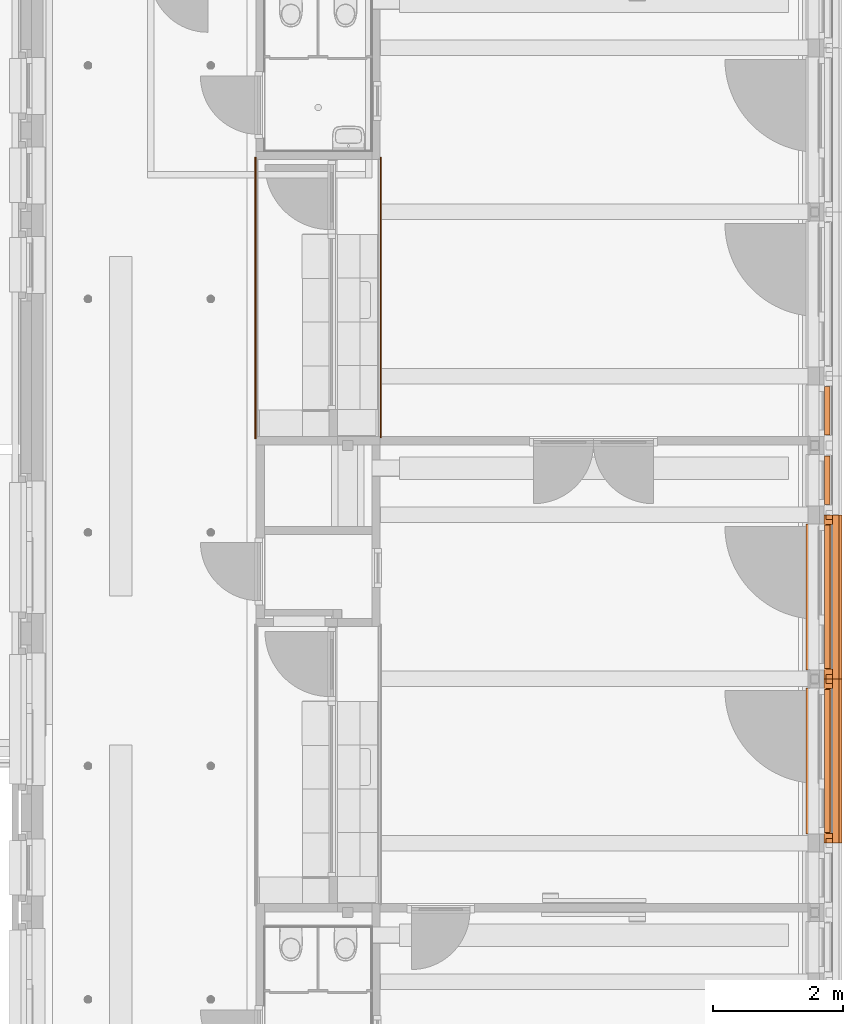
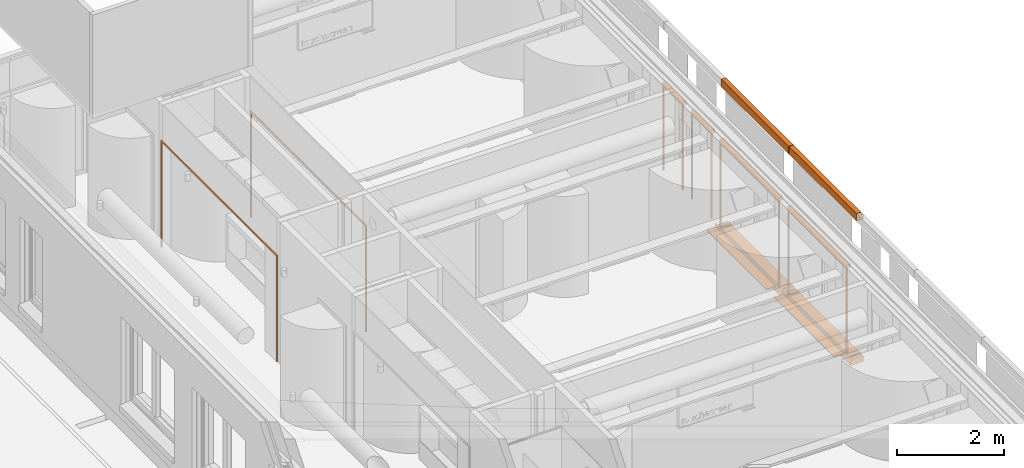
# One storey, part 103 of 128: 12 proxies.
"""IFC2X3 building model written with IfcOpenShell, lengths in millimetres."""

from ifc_helpers import new_model, entity, si_unit, converted_unit, derived_unit, direction, frame, frame_2d, origin, origin_2d_with_axis, place, context, subcontext, project, spatial, polyline, circle_curve, parameter, trimmed, segment, composite_curve, rectangle, outline, extrude, source, transform, mapped, material, material_list, type_object, type_shapes, element, save


model = new_model("IFC2X3")

# Units and contexts
model_context = context("Model", 3, precision=0.01, world=origin(), true_north=direction((6.123031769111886e-17, 1.0)))
body_context = subcontext(model_context, "Body", "Model", "MODEL_VIEW")
ifc_project = project(units=[si_unit("LENGTHUNIT", "METRE", prefix="MILLI"), si_unit("AREAUNIT", "SQUARE_METRE"), si_unit("VOLUMEUNIT", "CUBIC_METRE"), converted_unit("PLANEANGLEUNIT", "DEGREE", entity("IfcRatioMeasure", 0.017453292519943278), si_unit("PLANEANGLEUNIT", "RADIAN"), dimensions=[0, 0, 0, 0, 0, 0, 0]), si_unit("MASSUNIT", "GRAM", prefix="KILO"), derived_unit("MASSDENSITYUNIT", [(si_unit("MASSUNIT", "GRAM", prefix="KILO"), 1), (si_unit("LENGTHUNIT", "METRE"), -3)]), derived_unit("IONCONCENTRATIONUNIT", [(si_unit("MASSUNIT", "GRAM", prefix="KILO"), 1), (si_unit("LENGTHUNIT", "METRE"), -3)]), derived_unit("MOMENTOFINERTIAUNIT", [(si_unit("LENGTHUNIT", "METRE"), 4)]), si_unit("TIMEUNIT", "SECOND"), si_unit("FREQUENCYUNIT", "HERTZ"), si_unit("THERMODYNAMICTEMPERATUREUNIT", "DEGREE_CELSIUS"), derived_unit("THERMALTRANSMITTANCEUNIT", [(si_unit("MASSUNIT", "GRAM", prefix="KILO"), 1), (si_unit("THERMODYNAMICTEMPERATUREUNIT", "KELVIN"), -1), (si_unit("TIMEUNIT", "SECOND"), -3)]), derived_unit("THERMALCONDUCTANCEUNIT", [(si_unit("MASSUNIT", "GRAM", prefix="KILO"), 1), (si_unit("THERMODYNAMICTEMPERATUREUNIT", "KELVIN"), -1), (si_unit("TIMEUNIT", "SECOND"), -3), (si_unit("LENGTHUNIT", "METRE"), 1)]), derived_unit("VOLUMETRICFLOWRATEUNIT", [(si_unit("LENGTHUNIT", "METRE"), 3), (si_unit("TIMEUNIT", "SECOND"), -1)]), derived_unit("MASSFLOWRATEUNIT", [(si_unit("MASSUNIT", "GRAM", prefix="KILO"), 1), (si_unit("TIMEUNIT", "SECOND"), -1)]), derived_unit("ROTATIONALFREQUENCYUNIT", [(si_unit("TIMEUNIT", "SECOND"), -1)]), si_unit("ELECTRICCURRENTUNIT", "AMPERE"), si_unit("ELECTRICVOLTAGEUNIT", "VOLT"), si_unit("POWERUNIT", "WATT"), si_unit("FORCEUNIT", "NEWTON", prefix="KILO"), si_unit("ILLUMINANCEUNIT", "LUX"), si_unit("LUMINOUSFLUXUNIT", "LUMEN"), si_unit("LUMINOUSINTENSITYUNIT", "CANDELA"), derived_unit("USERDEFINED", [(si_unit("MASSUNIT", "GRAM", prefix="KILO"), -1), (si_unit("LENGTHUNIT", "METRE"), -2), (si_unit("TIMEUNIT", "SECOND"), 3), (si_unit("LUMINOUSFLUXUNIT", "LUMEN"), 1)]), derived_unit("USERDEFINED", [(si_unit("MASSUNIT", "GRAM", prefix="KILO"), 1), (si_unit("TIMEUNIT", "SECOND"), -3), (si_unit("LENGTHUNIT", "METRE"), 3), (si_unit("ELECTRICCURRENTUNIT", "AMPERE"), -2)]), derived_unit("SOUNDPOWERUNIT", [(si_unit("MASSUNIT", "GRAM", prefix="KILO"), 1), (si_unit("TIMEUNIT", "SECOND"), -3), (si_unit("LENGTHUNIT", "METRE"), 2)]), derived_unit("SOUNDPRESSUREUNIT", [(si_unit("MASSUNIT", "GRAM", prefix="KILO"), 1), (si_unit("LENGTHUNIT", "METRE"), -1), (si_unit("TIMEUNIT", "SECOND"), -2)]), derived_unit("LINEARVELOCITYUNIT", [(si_unit("LENGTHUNIT", "METRE"), 1), (si_unit("TIMEUNIT", "SECOND"), -1)]), si_unit("PRESSUREUNIT", "PASCAL"), derived_unit("USERDEFINED", [(si_unit("MASSUNIT", "GRAM", prefix="KILO"), 1), (si_unit("LENGTHUNIT", "METRE"), -2), (si_unit("TIMEUNIT", "SECOND"), -2)]), derived_unit("LINEARFORCEUNIT", [(si_unit("MASSUNIT", "GRAM", prefix="KILO"), 1), (si_unit("TIMEUNIT", "SECOND"), -2)]), derived_unit("PLANARFORCEUNIT", [(si_unit("MASSUNIT", "GRAM", prefix="KILO"), 1), (si_unit("LENGTHUNIT", "METRE"), -1), (si_unit("TIMEUNIT", "SECOND"), -2)]), derived_unit("SPECIFICHEATCAPACITYUNIT", [(si_unit("THERMODYNAMICTEMPERATUREUNIT", "KELVIN"), -1), (si_unit("LENGTHUNIT", "METRE"), 2), (si_unit("TIMEUNIT", "SECOND"), -2)]), derived_unit("HEATINGVALUEUNIT", [(si_unit("LENGTHUNIT", "METRE"), 2), (si_unit("TIMEUNIT", "SECOND"), -2)]), derived_unit("VAPORPERMEABILITYUNIT", [(si_unit("LENGTHUNIT", "METRE"), -1), (si_unit("TIMEUNIT", "SECOND"), 1)]), derived_unit("DYNAMICVISCOSITYUNIT", [(si_unit("MASSUNIT", "GRAM", prefix="KILO"), 1), (si_unit("TIMEUNIT", "SECOND"), -1), (si_unit("LENGTHUNIT", "METRE"), -1)]), derived_unit("THERMALEXPANSIONCOEFFICIENTUNIT", [(si_unit("THERMODYNAMICTEMPERATUREUNIT", "KELVIN"), -1)]), derived_unit("MODULUSOFELASTICITYUNIT", [(si_unit("MASSUNIT", "GRAM", prefix="KILO"), 1), (si_unit("LENGTHUNIT", "METRE"), -1), (si_unit("TIMEUNIT", "SECOND"), -2)]), derived_unit("ISOTHERMALMOISTURECAPACITYUNIT", [(si_unit("LENGTHUNIT", "METRE"), 3), (si_unit("MASSUNIT", "GRAM", prefix="KILO"), -1)]), derived_unit("MOISTUREDIFFUSIVITYUNIT", [(si_unit("TIMEUNIT", "SECOND"), -1), (si_unit("LENGTHUNIT", "METRE"), 2)])], contexts=[model_context])

# Site, building, storey
site_placement = place(None, frame((0.0, 300.0, 0.0)))
site = spatial("IfcSite", under=ifc_project, at=site_placement, Name="<Kadastrale nummers>", CompositionType="ELEMENT")
building_placement = place(site_placement, origin())
building = spatial("IfcBuilding", under=site, at=building_placement, CompositionType="ELEMENT")
storey_placement = place(building_placement, frame((0.0, 0.0, 3560.0000331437)))
storey = spatial("IfcBuildingStorey", under=building, at=storey_placement, Name="01 eerste verdieping", CompositionType="ELEMENT", Elevation=3560.0000331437)

# Proxies
ifc_material_1 = material(Name="ISR_Beton_prefab")
building_element_proxy_type_1 = type_object("IfcBuildingElementProxyType", Name="29_DAT_Prefab betonnen waterslag lang:22", PredefinedType="NOTDEFINED", material=ifc_material_1)
shared_shape_1 = source(origin(), body_context, "Body", "SweptSolid", [
    extrude(outline(polyline([(-16.052237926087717, -115.0), (26.113434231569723, -115.0), (5.9910416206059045, 115.0), (-16.052237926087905, 115.0), (-16.052237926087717, -115.0)])), frame((2377.0, 75.0, -16.05223792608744), z_axis=(1.0, 0.0, 0.0), x_axis=(0.0, 0.0, -1.0)), (0.0, 0.0, 1.0), 79.99999999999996),
    extrude(outline(polyline([(-16.052237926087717, -115.0), (26.113434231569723, -115.0), (5.9910416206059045, 115.0), (-16.052237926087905, 115.0), (-16.052237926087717, -115.0)])), frame((67.0, 75.0, -16.05223792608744), z_axis=(1.0, 0.0, 0.0), x_axis=(0.0, 0.0, -1.0)), (0.0, 0.0, 1.0), 80.00000000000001),
    extrude(outline(composite_curve([segment(polyline([(-140.0, -95.7340207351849), (-110.0, -95.7340207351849)]), True, "CONTINUOUS"), segment(polyline([(-110.0, -95.7340207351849), (-110.0, -73.7340207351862)]), True, "CONTINUOUS"), segment(polyline([(-110.0, -73.7340207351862), (140.0, -51.861854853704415)]), True, "CONTINUOUS"), segment(polyline([(140.0, -51.86185485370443), (140.0, 79.26597926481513)]), True, "CONTINUOUS"), segment(polyline([(140.0, 79.26597926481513), (115.0, 79.26597926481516)]), True, "CONTINUOUS"), segment(trimmed(circle_curve(frame_2d((110.0, 79.26597926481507), x_axis=(1.0, 0.0)), 5.000000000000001), [parameter(179.99999999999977)], [parameter(4.0711099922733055e-13)], True, "PARAMETER"), False, "CONTINUOUS"), segment(polyline([(105.0, 79.26597926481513), (-140.0, 79.26597926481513)]), True, "CONTINUOUS"), segment(polyline([(-140.0, 79.26597926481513), (-140.0, -95.7340207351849)]), True, "CONTINUOUS")], self_intersect=False)), frame((0.0, 80.0, -95.73402073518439), z_axis=(1.0, 0.0, 0.0), x_axis=(0.0, -1.0, 0.0)), (0.0, 0.0, 1.0), 2524.0000000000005),
])
type_shapes(building_element_proxy_type_1, [shared_shape_1])
for number, where, z_axis, x_axis, name in (
    (1, (48965.0, 20103.0, 890.0000018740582), (0.0, 0.0, 1.0), (0.0, 1.0, 0.0), "29_DAT_Prefab betonnen waterslag lang:22"),
    (2, (48965.0, 17573.0, 890.0000018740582), (0.0, 0.0, 1.0), (0.0, 1.0, 0.0), "29_DAT_Prefab betonnen waterslag lang:22"),
):
    element("IfcBuildingElementProxy", number, at=place(storey_placement, frame(where, z_axis=z_axis, x_axis=x_axis)), inside=storey, type_object=building_element_proxy_type_1, material=ifc_material_1, Name=name, ObjectType="29_DAT_Prefab betonnen waterslag lang:22", context=body_context, shape_type="MappedRepresentation", body=[
        mapped(shared_shape_1, transform((0.0, 0.0, 0.0), scale=1.0)),
    ])
ifc_material_2 = material(Name="STAAL_RAL 7006")
ifc_material_3 = material(Name="<Unnamed>")
ifc_material_list = material_list([ifc_material_2, ifc_material_3])
building_element_proxy_type_2 = type_object("IfcBuildingElementProxyType", Name="31_DAT_Screen_zonwering_bak85:31_DAT_Screen_zonwering_bak85", PredefinedType="NOTDEFINED", material=ifc_material_list)
shared_shape_2 = source(origin(), body_context, "Body", "SweptSolid", [
    extrude(outline(polyline([(-60.69864841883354, -53.573897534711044), (20.695945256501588, -53.573897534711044), (20.695945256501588, 1.1216926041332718), (22.501351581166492, 1.1216926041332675), (22.501351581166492, 24.626102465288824), (17.501351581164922, 24.626102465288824), (17.501351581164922, 27.826102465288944), (-60.69864841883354, 27.826102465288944), (-60.69864841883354, -53.573897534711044)])), frame((2208.0, -29.62610246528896, 2752.501351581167), z_axis=(1.0, 0.0, 0.0), x_axis=(0.0, 0.0, -1.0)), (0.0, 0.0, 1.0), 1.999999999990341),
    extrude(outline(polyline([(-55.83243227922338, -51.08259835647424), (29.167567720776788, -51.08259835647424), (29.167567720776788, 5.412991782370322), (27.362161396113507, 5.412991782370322), (27.362161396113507, -49.28259835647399), (-54.032432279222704, -49.28259835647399), (-54.032432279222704, 32.117401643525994), (24.16756772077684, 32.117401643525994), (24.16756772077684, 28.91740164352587), (29.167567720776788, 28.91740164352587), (29.167567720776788, 33.917401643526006), (-55.83243227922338, 33.917401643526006), (-55.83243227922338, -51.08259835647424)])), frame((0.0, -33.917401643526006, 2759.1675677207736), z_axis=(1.0, 0.0, 0.0), x_axis=(0.0, 0.0, -1.0)), (0.0, 0.0, 1.0), 2210.000000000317),
    extrude(outline(polyline([(-60.69864841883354, -53.573897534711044), (20.695945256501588, -53.573897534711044), (20.695945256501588, 1.1216926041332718), (22.501351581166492, 1.1216926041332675), (22.501351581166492, 24.626102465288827), (17.501351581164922, 24.626102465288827), (17.501351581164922, 27.826102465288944), (-60.69864841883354, 27.826102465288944), (-60.69864841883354, -53.573897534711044)])), frame((0.0, -29.62610246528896, 2752.501351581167), z_axis=(1.0, 0.0, 0.0), x_axis=(0.0, 0.0, -1.0)), (0.0, 0.0, 1.0), 1.999999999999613),
    extrude(rectangle(XDim=2170.0000000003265, YDim=1.163311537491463, at=frame_2d((1.1368683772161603e-13, -2.1094237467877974e-15), x_axis=(1.0, 0.0))), frame((1105.0, -20.037293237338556, 2723.857769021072)), (0.0, 0.0, 1.0), 6.142230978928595),
    extrude(outline(composite_curve([segment(polyline([(-7.502327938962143, -23.023758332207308), (7.497672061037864, -23.023758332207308)]), True, "CONTINUOUS"), segment(trimmed(circle_curve(frame_2d((7.497672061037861, -21.523758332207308), x_axis=(0.0, -1.0)), 1.4999999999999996), [parameter(359.99999999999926)], [parameter(90.00000000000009)], True, "PARAMETER"), True, "CONTINUOUS"), segment(polyline([(8.997672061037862, -21.523758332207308), (8.997672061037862, 8.976241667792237)]), True, "CONTINUOUS"), segment(trimmed(circle_curve(frame_2d((5.99767206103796, 8.976241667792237), x_axis=(0.0, -1.0)), 3.0), [parameter(90.00000000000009)], [parameter(172.84454900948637)], True, "PARAMETER"), True, "CONTINUOUS"), segment(polyline([(6.371357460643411, 11.952877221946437), (2.232090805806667, 12.470504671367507)]), True, "CONTINUOUS"), segment(trimmed(circle_curve(frame_2d((2.1399803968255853, 11.733933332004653), x_axis=(0.0, -1.0)), 0.7423083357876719), [parameter(172.87199730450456)], [parameter(323.5235343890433)], True, "PARAMETER"), True, "CONTINUOUS"), segment(trimmed(circle_curve(frame_2d((-0.0023279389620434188, 8.976241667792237), x_axis=(0.0, -1.0)), 2.75), [parameter(217.47327986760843)], [parameter(141.78969998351)], True, "PARAMETER"), False, "CONTINUOUS"), segment(trimmed(circle_curve(frame_2d((-2.144636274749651, 11.733933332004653), x_axis=(0.0, -1.0)), 0.7423083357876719), [parameter(39.207114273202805)], [parameter(187.12800269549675)], True, "PARAMETER"), True, "CONTINUOUS"), segment(polyline([(-2.2367466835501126, 12.470504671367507), (-6.376013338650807, 11.952877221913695)]), True, "CONTINUOUS"), segment(trimmed(circle_curve(frame_2d((-6.002327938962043, 8.976241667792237), x_axis=(0.0, -1.0)), 3.0), [parameter(187.1554509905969)], [parameter(269.9999999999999)], True, "PARAMETER"), True, "CONTINUOUS"), segment(polyline([(-9.002327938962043, 8.976241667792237), (-9.002327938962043, -21.523758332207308)]), True, "CONTINUOUS"), segment(trimmed(circle_curve(frame_2d((-7.502327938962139, -21.523758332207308), x_axis=(0.0, -1.0)), 1.5000000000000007), [parameter(269.9999999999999)], [parameter(359.9999999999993)], True, "PARAMETER"), True, "CONTINUOUS")], self_intersect=False)), frame((20.0, -19.997672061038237, 2716.8815273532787), z_axis=(1.0, 0.0, 0.0), x_axis=(0.0, 1.0, 0.0)), (0.0, 0.0, 1.0), 2170.0000000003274),
    extrude(outline(polyline([(-14.638298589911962, -16.231574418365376), (-13.138298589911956, -16.231574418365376), (-13.138298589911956, 12.23272922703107), (-6.116685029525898, 12.23272922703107), (-6.116685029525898, -6.231574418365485), (-1.1166850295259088, -6.231574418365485), (-1.1166850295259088, -4.769580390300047), (-4.579546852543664, -4.769580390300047), (-4.579546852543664, 12.23272922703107), (13.866111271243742, 12.23272922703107), (13.866111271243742, -4.769580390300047), (10.361701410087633, -4.769580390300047), (10.361701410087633, -6.2315744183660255), (15.36170141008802, -6.2315744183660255), (15.36170141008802, 13.768425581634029), (-14.638298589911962, 13.768425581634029), (-14.638298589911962, -16.231574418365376)])), frame((2196.231574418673, -14.638298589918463, 800.0), z_axis=(0.0, 0.0, 1.0), x_axis=(0.0, -1.0, 0.0)), (0.0, 0.0, 1.0), 1930.000000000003),
    extrude(outline(polyline([(-16.231574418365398, -14.638298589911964), (13.768425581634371, -14.638298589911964), (13.76842558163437, 15.361701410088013), (-6.231574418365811, 15.361701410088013), (-6.231574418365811, 10.361701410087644), (-4.769580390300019, 10.361701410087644), (-4.769580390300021, 13.866111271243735), (12.2327292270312, 13.866111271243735), (12.2327292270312, -4.57954685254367), (-4.769580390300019, -4.57954685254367), (-4.769580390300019, -1.1166850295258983), (-6.231574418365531, -1.1166850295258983), (-6.231574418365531, -6.116685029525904), (12.232729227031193, -6.116685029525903), (12.232729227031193, -13.138298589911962), (-16.231574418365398, -13.138298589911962), (-16.231574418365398, -14.638298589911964)])), frame((13.768425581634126, -14.638298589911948, 800.0), z_axis=(0.0, 0.0, 1.0), x_axis=(-1.0, 0.0, 0.0)), (0.0, 0.0, 1.0), 1930.0000000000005),
])
type_shapes(building_element_proxy_type_2, [shared_shape_2])
for number, where, z_axis, x_axis, name in (
    (3, (48751.0, 20260.0, 100.00000187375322), (0.0, 0.0, 1.0), (0.0, 1.0, 0.0), "31_DAT_Screen_zonwering_bak85:31_DAT_Screen_zonwering_bak85"),
    (4, (48751.0, 17730.0, 100.00000187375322), (0.0, 0.0, 1.0), (0.0, 1.0, 0.0), "31_DAT_Screen_zonwering_bak85:31_DAT_Screen_zonwering_bak85"),
):
    element("IfcBuildingElementProxy", number, at=place(storey_placement, frame(where, z_axis=z_axis, x_axis=x_axis)), inside=storey, type_object=building_element_proxy_type_2, material=ifc_material_list, Name=name, ObjectType="31_DAT_Screen_zonwering_bak85:31_DAT_Screen_zonwering_bak85", context=body_context, shape_type="MappedRepresentation", body=[
        mapped(shared_shape_2, transform((0.0, 0.0, 0.0), scale=1.0)),
    ])
building_element_proxy_type_3 = type_object("IfcBuildingElementProxyType", Name="29_DAT_Prefab betonband afgeschuind:29_DAT_Prefab betonband afgeschuind", PredefinedType="NOTDEFINED", material=ifc_material_1)
shared_shape_3 = source(origin(), body_context, "Body", "SweptSolid", [
    extrude(outline(polyline([(-94.16666666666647, -83.33333333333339), (80.83333333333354, -83.33333333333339), (80.83333333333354, 16.66666666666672), (18.33333333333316, 16.666666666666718), (8.333333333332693, 66.66666666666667), (-94.16666666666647, 66.66666666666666), (-94.16666666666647, -83.33333333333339)])), frame((0.0, 16.66666666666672, -18.33333333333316), z_axis=(1.0, 0.0, 0.0), x_axis=(0.0, 0.0, 1.0)), (0.0, 0.0, 1.0), 2524.0000000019),
])
type_shapes(building_element_proxy_type_3, [shared_shape_3])
for number, where, z_axis, x_axis, name in (
    (5, (48975.0, 20103.0, 4077.4999668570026), (0.0, 0.0, 1.0), (0.0, 1.0, 0.0), "29_DAT_Prefab betonband afgeschuind:29_DAT_Prefab betonband afgeschuind"),
    (6, (48975.0, 17573.0, 4077.4999668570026), (0.0, 0.0, 1.0), (0.0, 1.0, 0.0), "29_DAT_Prefab betonband afgeschuind:29_DAT_Prefab betonband afgeschuind"),
):
    element("IfcBuildingElementProxy", number, at=place(storey_placement, frame(where, z_axis=z_axis, x_axis=x_axis)), inside=storey, type_object=building_element_proxy_type_3, material=ifc_material_1, Name=name, ObjectType="29_DAT_Prefab betonband afgeschuind:29_DAT_Prefab betonband afgeschuind", context=body_context, shape_type="MappedRepresentation", body=[
        mapped(shared_shape_3, transform((0.0, 0.0, 0.0), scale=1.0)),
    ])
building_element_proxy_type_4 = type_object("IfcBuildingElementProxyType", Name="31_DAT_Screen_zonwering_bak85:31_DAT_Screen_zonwering_bak85", PredefinedType="NOTDEFINED", material=ifc_material_list)
shared_shape_4 = source(origin(), body_context, "Body", "SweptSolid", [
    extrude(outline(polyline([(-60.69864841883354, -53.573897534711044), (20.695945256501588, -53.573897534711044), (20.695945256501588, 1.1216926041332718), (22.501351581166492, 1.1216926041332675), (22.501351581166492, 24.626102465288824), (17.501351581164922, 24.626102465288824), (17.501351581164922, 27.826102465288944), (-60.69864841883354, 27.826102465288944), (-60.69864841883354, -53.573897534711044)])), frame((748.0, -29.62610246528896, 2752.501351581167), z_axis=(1.0, 0.0, 0.0), x_axis=(0.0, 0.0, -1.0)), (0.0, 0.0, 1.0), 1.9999999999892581),
    extrude(outline(polyline([(-55.83243227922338, -51.08259835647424), (29.167567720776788, -51.08259835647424), (29.167567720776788, 5.412991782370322), (27.362161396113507, 5.412991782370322), (27.362161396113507, -49.28259835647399), (-54.032432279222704, -49.28259835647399), (-54.032432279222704, 32.117401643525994), (24.16756772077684, 32.117401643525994), (24.16756772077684, 28.91740164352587), (29.167567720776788, 28.91740164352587), (29.167567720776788, 33.917401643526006), (-55.83243227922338, 33.917401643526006), (-55.83243227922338, -51.08259835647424)])), frame((0.0, -33.917401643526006, 2759.1675677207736), z_axis=(1.0, 0.0, 0.0), x_axis=(0.0, 0.0, -1.0)), (0.0, 0.0, 1.0), 749.9999999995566),
    extrude(outline(polyline([(-60.69864841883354, -53.573897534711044), (20.695945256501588, -53.573897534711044), (20.695945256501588, 1.1216926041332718), (22.501351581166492, 1.1216926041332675), (22.501351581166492, 24.626102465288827), (17.501351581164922, 24.626102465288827), (17.501351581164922, 27.826102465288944), (-60.69864841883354, 27.826102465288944), (-60.69864841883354, -53.573897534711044)])), frame((0.0, -29.62610246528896, 2752.501351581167), z_axis=(1.0, 0.0, 0.0), x_axis=(0.0, 0.0, -1.0)), (0.0, 0.0, 1.0), 1.999999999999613),
    extrude(rectangle(XDim=709.9999999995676, YDim=1.163311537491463, at=frame_2d((0.0, -2.1094237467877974e-15), x_axis=(1.0, 0.0))), frame((375.0, -20.037293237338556, 2730.0)), (0.0, 0.0, 1.0), 61.996041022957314),
    extrude(outline(composite_curve([segment(polyline([(-7.502327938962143, -23.023758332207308), (7.497672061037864, -23.023758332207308)]), True, "CONTINUOUS"), segment(trimmed(circle_curve(frame_2d((7.497672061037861, -21.523758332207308), x_axis=(0.0, -1.0)), 1.4999999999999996), [parameter(359.99999999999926)], [parameter(90.00000000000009)], True, "PARAMETER"), True, "CONTINUOUS"), segment(polyline([(8.997672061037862, -21.523758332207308), (8.997672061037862, 8.976241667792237)]), True, "CONTINUOUS"), segment(trimmed(circle_curve(frame_2d((5.99767206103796, 8.976241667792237), x_axis=(0.0, -1.0)), 3.0), [parameter(90.00000000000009)], [parameter(172.84454900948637)], True, "PARAMETER"), True, "CONTINUOUS"), segment(polyline([(6.371357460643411, 11.952877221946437), (2.232090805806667, 12.470504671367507)]), True, "CONTINUOUS"), segment(trimmed(circle_curve(frame_2d((2.1399803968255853, 11.733933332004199), x_axis=(0.0, -1.0)), 0.7423083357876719), [parameter(172.87199730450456)], [parameter(323.5235343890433)], True, "PARAMETER"), True, "CONTINUOUS"), segment(trimmed(circle_curve(frame_2d((-0.0023279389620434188, 8.976241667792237), x_axis=(0.0, -1.0)), 2.75), [parameter(217.47327986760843)], [parameter(141.78969998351)], True, "PARAMETER"), False, "CONTINUOUS"), segment(trimmed(circle_curve(frame_2d((-2.144636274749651, 11.733933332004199), x_axis=(0.0, -1.0)), 0.7423083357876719), [parameter(39.207114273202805)], [parameter(187.12800269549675)], True, "PARAMETER"), True, "CONTINUOUS"), segment(polyline([(-2.2367466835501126, 12.470504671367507), (-6.376013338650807, 11.95287722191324)]), True, "CONTINUOUS"), segment(trimmed(circle_curve(frame_2d((-6.002327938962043, 8.976241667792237), x_axis=(0.0, -1.0)), 3.0), [parameter(187.1554509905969)], [parameter(269.9999999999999)], True, "PARAMETER"), True, "CONTINUOUS"), segment(polyline([(-9.002327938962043, 8.976241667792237), (-9.002327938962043, -21.523758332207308)]), True, "CONTINUOUS"), segment(trimmed(circle_curve(frame_2d((-7.502327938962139, -21.523758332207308), x_axis=(0.0, -1.0)), 1.5000000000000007), [parameter(269.9999999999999)], [parameter(359.9999999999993)], True, "PARAMETER"), True, "CONTINUOUS")], self_intersect=False)), frame((20.0, -19.997672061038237, 2785.0197993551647), z_axis=(1.0, 0.0, 0.0), x_axis=(0.0, 1.0, 0.0)), (0.0, 0.0, 1.0), 709.9999999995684),
    extrude(outline(polyline([(-14.638298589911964, -16.231574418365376), (-13.138298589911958, -16.231574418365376), (-13.138298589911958, 12.232729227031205), (-6.116685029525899, 12.232729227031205), (-6.116685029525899, -6.231574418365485), (-1.116685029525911, -6.231574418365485), (-1.116685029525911, -4.769580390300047), (-4.579546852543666, -4.769580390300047), (-4.579546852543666, 12.23272922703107), (13.86611127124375, 12.23272922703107), (13.86611127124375, -4.769580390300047), (10.36170141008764, -4.769580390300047), (10.36170141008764, -6.2315744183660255), (15.36170141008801, -6.2315744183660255), (15.36170141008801, 13.768425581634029), (-14.638298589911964, 13.768425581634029), (-14.638298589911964, -16.231574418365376)])), frame((736.2315744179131, -14.638298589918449, 800.0), z_axis=(0.0, 0.0, 1.0), x_axis=(0.0, -1.0, 0.0)), (0.0, 0.0, 1.0), 1930.000000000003),
    extrude(outline(polyline([(-16.231574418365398, -14.638298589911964), (13.768425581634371, -14.638298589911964), (13.76842558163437, 15.361701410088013), (-6.231574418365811, 15.361701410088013), (-6.231574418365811, 10.361701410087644), (-4.769580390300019, 10.361701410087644), (-4.769580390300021, 13.866111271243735), (12.2327292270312, 13.866111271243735), (12.2327292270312, -4.57954685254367), (-4.769580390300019, -4.57954685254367), (-4.769580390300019, -1.1166850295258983), (-6.231574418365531, -1.1166850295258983), (-6.231574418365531, -6.116685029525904), (12.232729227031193, -6.116685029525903), (12.232729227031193, -13.138298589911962), (-16.231574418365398, -13.138298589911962), (-16.231574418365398, -14.638298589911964)])), frame((13.768425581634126, -14.638298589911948, 800.0), z_axis=(0.0, 0.0, 1.0), x_axis=(-1.0, 0.0, 0.0)), (0.0, 0.0, 1.0), 1930.0000000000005),
])
type_shapes(building_element_proxy_type_4, [shared_shape_4])
for number, where, z_axis, x_axis, name in (
    (7, (48751.0, 23860.0, 100.00000187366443), (0.0, 0.0, 1.0), (0.0, 1.0, 0.0), "31_DAT_Screen_zonwering_bak85:31_DAT_Screen_zonwering_bak85"),
    (8, (48751.0, 22790.0, 100.00000187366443), (0.0, 0.0, 1.0), (0.0, 1.0, 0.0), "31_DAT_Screen_zonwering_bak85:31_DAT_Screen_zonwering_bak85"),
):
    element("IfcBuildingElementProxy", number, at=place(storey_placement, frame(where, z_axis=z_axis, x_axis=x_axis)), inside=storey, type_object=building_element_proxy_type_4, material=ifc_material_list, Name=name, ObjectType="31_DAT_Screen_zonwering_bak85:31_DAT_Screen_zonwering_bak85", context=body_context, shape_type="MappedRepresentation", body=[
        mapped(shared_shape_4, transform((0.0, 0.0, 0.0), scale=1.0)),
    ])

# Space
space_1_placement = place(storey_placement, origin())
space_1 = spatial("IfcSpace", under=storey, at=space_1_placement, Name="1.22", CompositionType="ELEMENT", InteriorOrExteriorSpace="INTERNAL")

# Proxies
ifc_material_4 = material(Name="e1_natuursteen")
building_element_proxy_type_5 = type_object("IfcBuildingElementProxyType", Name="NLRS_31_GM_WPB_vensterbank natuursteen -SH_gen_ASN:200x18", PredefinedType="USERDEFINED", material=ifc_material_4)
shared_shape_5 = source(origin(), body_context, "Body", "SweptSolid", [
    extrude(rectangle(XDim=200.0, YDim=2250.000000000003, at=origin_2d_with_axis()), frame((0.0, -100.0, 0.0), z_axis=(0.0, 0.0, 1.0), x_axis=(0.0, -1.0, 0.0)), (0.0, 0.0, 1.0), 17.999999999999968),
])
type_shapes(building_element_proxy_type_5, [shared_shape_5])
for number, where, z_axis, x_axis, name in (
    (9, (48468.0, 21365.0, 920.0000018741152), (0.0, 0.0, 1.0), (0.0, 1.0, 0.0), "NLRS_31_GM_WPB_vensterbank natuursteen -SH_gen_ASN:200x18"),
    (10, (48468.0, 18835.0, 920.0000018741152), (0.0, 0.0, 1.0), (0.0, 1.0, 0.0), "NLRS_31_GM_WPB_vensterbank natuursteen -SH_gen_ASN:200x18"),
):
    element("IfcBuildingElementProxy", number, at=place(space_1_placement, frame(where, z_axis=z_axis, x_axis=x_axis)), inside=space_1, type_object=building_element_proxy_type_5, material=ifc_material_4, Name=name, ObjectType="NLRS_31_GM_WPB_vensterbank natuursteen -SH_gen_ASN:200x18", context=body_context, shape_type="MappedRepresentation", body=[
        mapped(shared_shape_5, transform((0.0, 0.0, 0.0), scale=1.0)),
    ])

# Space
space_2_placement = place(storey_placement, origin())
space_2 = spatial("IfcSpace", under=storey, at=space_2_placement, Name="1.20", CompositionType="ELEMENT", InteriorOrExteriorSpace="INTERNAL")

# Proxy
ifc_material_5 = material(Name="ISR_HPL Kleur hout")
building_element_proxy_type_6 = type_object("IfcBuildingElementProxyType", Name="82_DAT_Trimlat om element:82_DAT_Trimlat om element", PredefinedType="NOTDEFINED", material=ifc_material_5)
shared_shape_6 = source(origin(), body_context, "Body", "SweptSolid", [
    extrude(rectangle(XDim=19.999999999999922, YDim=34.99999999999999, at=origin_2d_with_axis()), frame((-17.500000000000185, -10.0, 0.0), z_axis=(0.0, 0.0, 1.0), x_axis=(0.0, 1.0, 0.0)), (0.0, 0.0, 1.0), 2400.000000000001),
    extrude(rectangle(XDim=20.000000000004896, YDim=34.99999999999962, at=frame_2d((0.0, -5.400124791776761e-13), x_axis=(1.0, 0.0))), frame((4292.49999999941, -10.0, 0.0), z_axis=(0.0, 0.0, 1.0), x_axis=(0.0, 1.0, 0.0)), (0.0, 0.0, 1.0), 2400.000000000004),
    extrude(rectangle(XDim=19.99999999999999, YDim=4344.999999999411, at=frame_2d((0.0, -2.2737367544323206e-13), x_axis=(1.0, 0.0))), frame((2137.499999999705, -10.0, 2400.0), z_axis=(0.0, 0.0, 1.0), x_axis=(0.0, 1.0, 0.0)), (0.0, 0.0, 1.0), 34.99999999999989),
])
type_shapes(building_element_proxy_type_6, [shared_shape_6])
proxy_1_placement = place(space_2_placement, frame((39989.993398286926, 28109.99862327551, 90.00000187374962), z_axis=(0.0, 0.0, 1.0), x_axis=(0.0, -1.0, 0.0)))
element("IfcBuildingElementProxy", 11, at=proxy_1_placement, inside=space_2, type_object=building_element_proxy_type_6, material=ifc_material_5, Name="82_DAT_Trimlat om element:82_DAT_Trimlat om element", ObjectType="82_DAT_Trimlat om element:82_DAT_Trimlat om element", context=body_context, shape_type="MappedRepresentation", body=[
    mapped(shared_shape_6, transform((0.0, 0.0, 0.0), scale=1.0)),
])

# Space
space_3_placement = place(storey_placement, origin())
space_3 = spatial("IfcSpace", under=storey, at=space_3_placement, Name="1.21", CompositionType="ELEMENT", InteriorOrExteriorSpace="INTERNAL")

# Proxy
building_element_proxy_type_7 = type_object("IfcBuildingElementProxyType", Name="82_DAT_Trimlat om element:82_DAT_Trimlat om element", PredefinedType="NOTDEFINED", material=ifc_material_5)
shared_shape_7 = source(origin(), body_context, "Body", "SweptSolid", [
    extrude(rectangle(XDim=35.0, YDim=19.999999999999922, at=frame_2d((-1.7763568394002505e-15, 0.0), x_axis=(1.0, 0.0))), frame((-17.500000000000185, 10.0, 0.0), z_axis=(0.0, 0.0, 1.0), x_axis=(-1.0, 0.0, 0.0)), (0.0, 0.0, 1.0), 2400.000000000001),
    extrude(rectangle(XDim=34.99999999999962, YDim=20.000000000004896, at=origin_2d_with_axis()), frame((4272.499999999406, 10.0, 0.0), z_axis=(0.0, 0.0, 1.0), x_axis=(-1.0, 0.0, 0.0)), (0.0, 0.0, 1.0), 2400.000000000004),
    extrude(rectangle(XDim=4324.999999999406, YDim=19.99999999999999, at=origin_2d_with_axis()), frame((2127.499999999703, 10.0, 2400.0), z_axis=(0.0, 0.0, 1.0), x_axis=(-1.0, 0.0, 0.0)), (0.0, 0.0, 1.0), 34.99999999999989),
])
type_shapes(building_element_proxy_type_7, [shared_shape_7])
proxy_2_placement = place(space_3_placement, frame((41899.993398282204, 28109.99862327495, 90.00000187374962), z_axis=(0.0, 0.0, 1.0), x_axis=(0.0, -1.0, 0.0)))
element("IfcBuildingElementProxy", 12, at=proxy_2_placement, inside=space_3, type_object=building_element_proxy_type_7, material=ifc_material_5, Name="82_DAT_Trimlat om element:82_DAT_Trimlat om element", ObjectType="82_DAT_Trimlat om element:82_DAT_Trimlat om element", context=body_context, shape_type="MappedRepresentation", body=[
    mapped(shared_shape_7, transform((0.0, 0.0, 0.0), scale=1.0)),
])

save(model, "model.ifc")
